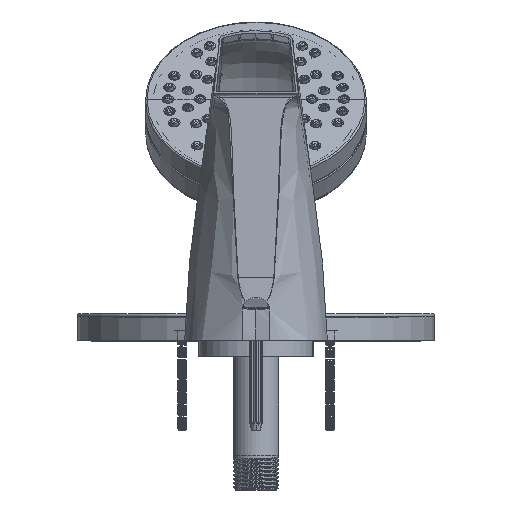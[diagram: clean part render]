
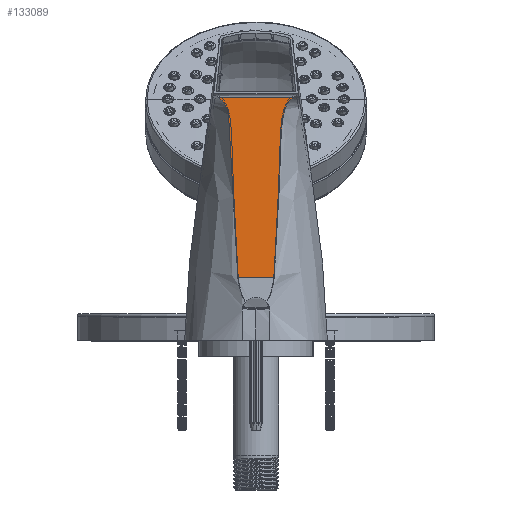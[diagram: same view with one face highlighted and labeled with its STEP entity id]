
A CAD part, front view. The second image highlights one B-rep face of the part: STEP entity #133089.
In plain terms, the highlighted planar face has unit normal (0, -0.999, 0.044).
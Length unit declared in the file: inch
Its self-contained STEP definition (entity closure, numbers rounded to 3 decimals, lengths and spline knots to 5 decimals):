
#838 = CARTESIAN_POINT ( 'NONE',  ( 1.51209, -8.46709, 8.61643 ) ) ;
#4045 = LINE ( 'NONE', #42225, #40033 ) ;
#4091 = CARTESIAN_POINT ( 'NONE',  ( 1.50056, -8.46268, 8.71745 ) ) ;
#5438 = DIRECTION ( 'NONE',  ( 1., 0., 0. ) ) ;
#8933 = CARTESIAN_POINT ( 'NONE',  ( 1.64635, -8.58357, 5.94859 ) ) ;
#11205 = CARTESIAN_POINT ( 'NONE',  ( 2.56307, -8.44686, 9.07973 ) ) ;
#12018 = CARTESIAN_POINT ( 'NONE',  ( 2.51468, -8.44994, 9.00928 ) ) ;
#13279 = CARTESIAN_POINT ( 'NONE',  ( 1.53511, -8.4833, 8.24511 ) ) ;
#19144 = PLANE ( 'NONE',  #161866 ) ;
#20757 = DIRECTION ( 'NONE',  ( 0., 0.044, 0.999 ) ) ;
#22813 = CARTESIAN_POINT ( 'NONE',  ( 2.47732, -8.45411, 8.91382 ) ) ;
#24482 = CARTESIAN_POINT ( 'NONE',  ( 2.37199, -8.52465, 7.2982 ) ) ;
#25298 = CARTESIAN_POINT ( 'NONE',  ( 2.34213, -8.55414, 6.62277 ) ) ;
#25729 = CARTESIAN_POINT ( 'NONE',  ( 1.54887, -8.50101, 7.83952 ) ) ;
#26161 = CARTESIAN_POINT ( 'NONE',  ( 2.62745, -8.44441, 9.13592 ) ) ;
#32272 = CARTESIAN_POINT ( 'NONE',  ( 1.4492, -8.45259, 8.94853 ) ) ;
#33089 = CARTESIAN_POINT ( 'NONE',  ( 1.40427, -8.44862, 9.03937 ) ) ;
#36125 = CARTESIAN_POINT ( 'NONE',  ( 2.45957, -8.45696, 8.84845 ) ) ;
#36937 = CARTESIAN_POINT ( 'NONE',  ( 2.38845, -8.50104, 7.83885 ) ) ;
#38595 = CARTESIAN_POINT ( 'NONE',  ( 2.53125, -8.44864, 9.03898 ) ) ;
#39832 = CARTESIAN_POINT ( 'NONE',  ( 1.52516, -8.47445, 8.44776 ) ) ;
#40024 = EDGE_CURVE ( 'NONE', #113541, #145157, #65156, .T. ) ;
#40033 = VECTOR ( 'NONE', #43049, 39.37008 ) ;
#40436 = CARTESIAN_POINT ( 'NONE',  ( 2.29099, -8.58357, 5.94859 ) ) ;
#40661 = CARTESIAN_POINT ( 'NONE',  ( 1.60307, -8.56002, 6.48793 ) ) ;
#41913 = B_SPLINE_CURVE_WITH_KNOTS ( 'NONE', 3,
 ( #112608, #62691, #151633, #125894, #11205, #38595, #12018, #149969, #49383, #22813, #89273, #36125, #138355, #100942, #139969, #85976, #88469, #100111, #163292, #87621, #86791, #60202, #110930, #36937, #73494, #24482, #75177, #25298, #161616, #124221, #98453, #75983 ),
 .UNSPECIFIED., .F., .F.,
 ( 4, 2, 2, 2, 2, 2, 2, 2, 2, 2, 2, 2, 2, 2, 2, 4 ),
 ( 0., 0.0013, 0.0026, 0.00521, 0.00651, 0.00781, 0.01041, 0.01301, 0.01562, 0.02082, 0.02603, 0.03123, 0.04164, 0.06247, 0.07288, 0.08329 ),
 .UNSPECIFIED. ) ;
#42225 = CARTESIAN_POINT ( 'NONE',  ( 0.44123, -8.58357, 5.94859 ) ) ;
#43049 = DIRECTION ( 'NONE',  ( 1., 0., 0. ) ) ;
#43096 = CARTESIAN_POINT ( 'NONE',  ( 1.49582, -8.46122, 8.75098 ) ) ;
#45521 = CARTESIAN_POINT ( 'NONE',  ( 1.50871, -8.46562, 8.65014 ) ) ;
#49383 = CARTESIAN_POINT ( 'NONE',  ( 2.48817, -8.45269, 8.94619 ) ) ;
#52279 = CARTESIAN_POINT ( 'NONE',  ( 1.63295, -8.57769, 6.08322 ) ) ;
#53137 = EDGE_CURVE ( 'NONE', #108877, #106583, #41913, .T. ) ;
#54258 = CARTESIAN_POINT ( 'NONE',  ( 1.3099, -8.44441, 9.13592 ) ) ;
#54752 = CARTESIAN_POINT ( 'NONE',  ( 1.3099, -8.44441, 9.13592 ) ) ;
#57986 = CARTESIAN_POINT ( 'NONE',  ( 1.39474, -8.448, 9.0536 ) ) ;
#60202 = CARTESIAN_POINT ( 'NONE',  ( 2.3971, -8.48924, 8.10915 ) ) ;
#62691 = CARTESIAN_POINT ( 'NONE',  ( 2.61311, -8.44483, 9.12628 ) ) ;
#63947 = CARTESIAN_POINT ( 'NONE',  ( 1.53226, -8.48035, 8.31268 ) ) ;
#65156 = B_SPLINE_CURVE_WITH_KNOTS ( 'NONE', 3,
 ( #103000, #52279, #142854, #40661, #139607, #79697, #130431, #113857, #25729, #127148, #153692, #13279, #63947, #39832, #114698, #838, #45521, #4091, #43096, #95407, #94604, #146103, #32272, #68831, #108728, #33089, #57986, #81319, #83759, #158576, #82951, #54752 ),
 .UNSPECIFIED., .F., .F.,
 ( 4, 2, 2, 2, 2, 2, 2, 2, 2, 2, 2, 2, 2, 2, 2, 4 ),
 ( 0., 0.01032, 0.02063, 0.04127, 0.05159, 0.05674, 0.0619, 0.06706, 0.06964, 0.07222, 0.0748, 0.07738, 0.07867, 0.07996, 0.08125, 0.08254 ),
 .UNSPECIFIED. ) ;
#68831 = CARTESIAN_POINT ( 'NONE',  ( 1.42889, -8.45057, 8.99482 ) ) ;
#73494 = CARTESIAN_POINT ( 'NONE',  ( 2.38458, -8.50694, 7.70368 ) ) ;
#75177 = CARTESIAN_POINT ( 'NONE',  ( 2.36255, -8.53645, 7.02793 ) ) ;
#75983 = CARTESIAN_POINT ( 'NONE',  ( 2.29099, -8.58357, 5.94859 ) ) ;
#79697 = CARTESIAN_POINT ( 'NONE',  ( 1.57478, -8.53643, 7.02828 ) ) ;
#81319 = CARTESIAN_POINT ( 'NONE',  ( 1.37387, -8.44684, 9.08017 ) ) ;
#81424 = ORIENTED_EDGE ( 'NONE', *, *, #89826, .F. ) ;
#82951 = CARTESIAN_POINT ( 'NONE',  ( 1.32412, -8.44483, 9.12636 ) ) ;
#83759 = CARTESIAN_POINT ( 'NONE',  ( 1.36247, -8.4463, 9.09261 ) ) ;
#85348 = VECTOR ( 'NONE', #5438, 39.37008 ) ;
#85976 = CARTESIAN_POINT ( 'NONE',  ( 2.4285, -8.46568, 8.64883 ) ) ;
#86791 = CARTESIAN_POINT ( 'NONE',  ( 2.4022, -8.48334, 8.24427 ) ) ;
#87621 = CARTESIAN_POINT ( 'NONE',  ( 2.40505, -8.48039, 8.31182 ) ) ;
#88469 = CARTESIAN_POINT ( 'NONE',  ( 2.42514, -8.46714, 8.61527 ) ) ;
#89273 = CARTESIAN_POINT ( 'NONE',  ( 2.47254, -8.45482, 8.89753 ) ) ;
#89709 = ORIENTED_EDGE ( 'NONE', *, *, #53137, .F. ) ;
#89826 = EDGE_CURVE ( 'NONE', #145157, #108877, #106849, .T. ) ;
#94604 = CARTESIAN_POINT ( 'NONE',  ( 1.47725, -8.45686, 8.85083 ) ) ;
#95407 = CARTESIAN_POINT ( 'NONE',  ( 1.48416, -8.4583, 8.81766 ) ) ;
#98453 = CARTESIAN_POINT ( 'NONE',  ( 2.30439, -8.57769, 6.08318 ) ) ;
#100111 = CARTESIAN_POINT ( 'NONE',  ( 2.41634, -8.47155, 8.5144 ) ) ;
#100942 = CARTESIAN_POINT ( 'NONE',  ( 2.44124, -8.4613, 8.74908 ) ) ;
#103000 = CARTESIAN_POINT ( 'NONE',  ( 1.64635, -8.58357, 5.94859 ) ) ;
#106583 = VERTEX_POINT ( 'NONE', #40436 ) ;
#106849 = LINE ( 'NONE', #144242, #85348 ) ;
#108728 = CARTESIAN_POINT ( 'NONE',  ( 1.42136, -8.44991, 9.00995 ) ) ;
#108877 = VERTEX_POINT ( 'NONE', #26161 ) ;
#110226 = ORIENTED_EDGE ( 'NONE', *, *, #136229, .T. ) ;
#110930 = CARTESIAN_POINT ( 'NONE',  ( 2.39485, -8.49219, 8.04158 ) ) ;
#112608 = CARTESIAN_POINT ( 'NONE',  ( 2.62745, -8.44441, 9.13592 ) ) ;
#113541 = VERTEX_POINT ( 'NONE', #8933 ) ;
#113857 = CARTESIAN_POINT ( 'NONE',  ( 1.55275, -8.50692, 7.7043 ) ) ;
#114698 = CARTESIAN_POINT ( 'NONE',  ( 1.52095, -8.47151, 8.51528 ) ) ;
#122178 = DIRECTION ( 'NONE',  ( 0., 0.999, -0.044 ) ) ;
#124221 = CARTESIAN_POINT ( 'NONE',  ( 2.31539, -8.57181, 6.21796 ) ) ;
#125894 = CARTESIAN_POINT ( 'NONE',  ( 2.57467, -8.44631, 9.09242 ) ) ;
#127148 = CARTESIAN_POINT ( 'NONE',  ( 1.54247, -8.49216, 8.04234 ) ) ;
#130431 = CARTESIAN_POINT ( 'NONE',  ( 1.56534, -8.52463, 7.29866 ) ) ;
#133089 = ADVANCED_FACE ( 'NONE', ( #135447 ), #19144, .F. ) ;
#135447 = FACE_OUTER_BOUND ( 'NONE', #158443, .T. ) ;
#136229 = EDGE_CURVE ( 'NONE', #113541, #106583, #4045, .T. ) ;
#138355 = CARTESIAN_POINT ( 'NONE',  ( 2.45275, -8.4584, 8.81544 ) ) ;
#139607 = CARTESIAN_POINT ( 'NONE',  ( 1.59521, -8.55413, 6.62299 ) ) ;
#139969 = CARTESIAN_POINT ( 'NONE',  ( 2.43655, -8.46276, 8.71573 ) ) ;
#142854 = CARTESIAN_POINT ( 'NONE',  ( 1.62195, -8.57181, 6.21804 ) ) ;
#144242 = CARTESIAN_POINT ( 'NONE',  ( 0.44123, -8.44441, 9.13592 ) ) ;
#145157 = VERTEX_POINT ( 'NONE', #54258 ) ;
#146103 = CARTESIAN_POINT ( 'NONE',  ( 1.45971, -8.45399, 8.91643 ) ) ;
#149969 = CARTESIAN_POINT ( 'NONE',  ( 2.49426, -8.45199, 8.96232 ) ) ;
#151633 = CARTESIAN_POINT ( 'NONE',  ( 2.59968, -8.44529, 9.11567 ) ) ;
#153692 = CARTESIAN_POINT ( 'NONE',  ( 1.54022, -8.4892, 8.10994 ) ) ;
#158443 = EDGE_LOOP ( 'NONE', ( #164498, #110226, #89709, #81424 ) ) ;
#158576 = CARTESIAN_POINT ( 'NONE',  ( 1.33763, -8.44529, 9.1157 ) ) ;
#161216 = CARTESIAN_POINT ( 'NONE',  ( 0.44123, -8.58357, 5.94859 ) ) ;
#161616 = CARTESIAN_POINT ( 'NONE',  ( 2.33427, -8.56003, 6.48774 ) ) ;
#161866 = AXIS2_PLACEMENT_3D ( 'NONE', #161216, #122178, #20757 ) ;
#163292 = CARTESIAN_POINT ( 'NONE',  ( 2.41213, -8.47449, 8.44686 ) ) ;
#164498 = ORIENTED_EDGE ( 'NONE', *, *, #40024, .F. ) ;
